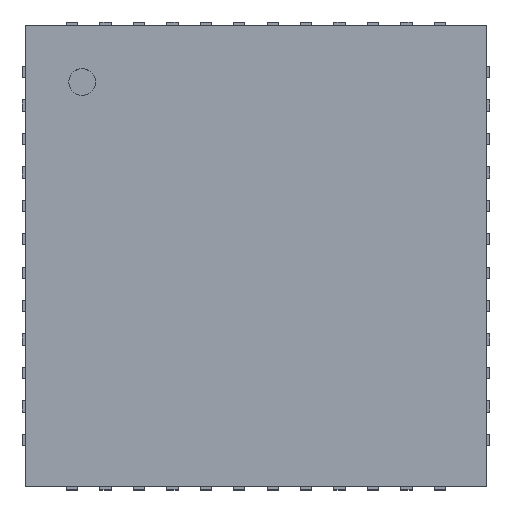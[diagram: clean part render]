
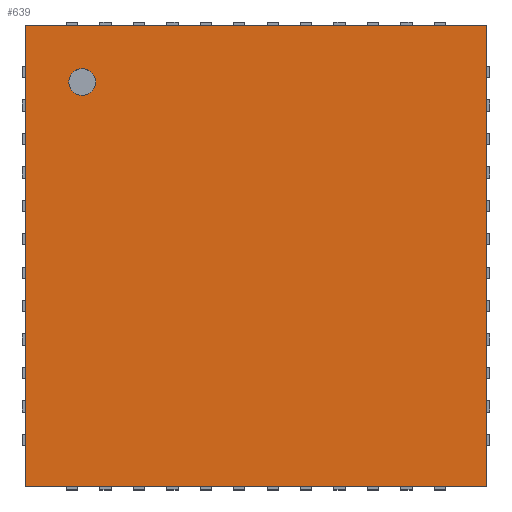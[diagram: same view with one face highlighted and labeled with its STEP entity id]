
A CAD part, top view. The second image highlights one B-rep face of the part: STEP entity #639.
In plain terms, the highlighted planar face has unit normal (0, 0, 1).
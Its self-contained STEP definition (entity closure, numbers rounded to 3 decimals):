
#639=ADVANCED_FACE('',(#1419,#1420),#1421,.T.);
#1419=FACE_OUTER_BOUND('',#2337,.T.);
#1420=FACE_BOUND('',#2338,.T.);
#1421=PLANE('',#2339);
#2337=EDGE_LOOP('',(#4610,#4611,#4612,#4613));
#2338=EDGE_LOOP('',(#4614,#4615));
#2339=AXIS2_PLACEMENT_3D('',#4616,#4617,#4618);
#4610=ORIENTED_EDGE('',*,*,#6047,.F.);
#4611=ORIENTED_EDGE('',*,*,#6086,.T.);
#4612=ORIENTED_EDGE('',*,*,#6415,.T.);
#4613=ORIENTED_EDGE('',*,*,#6376,.F.);
#4614=ORIENTED_EDGE('',*,*,#5787,.T.);
#4615=ORIENTED_EDGE('',*,*,#6741,.T.);
#4616=CARTESIAN_POINT('',(-3.45,3.45,1.1));
#4617=DIRECTION('',(0.0,0.0,1.0));
#4618=DIRECTION('',(1.0,0.0,0.0));
#5787=EDGE_CURVE('',#6989,#6986,#6990,.T.);
#6047=EDGE_CURVE('',#7481,#7419,#7483,.T.);
#6086=EDGE_CURVE('',#7481,#7545,#7547,.T.);
#6376=EDGE_CURVE('',#7419,#7981,#7982,.T.);
#6415=EDGE_CURVE('',#7545,#7981,#8045,.T.);
#6741=EDGE_CURVE('',#6986,#6989,#8539,.T.);
#6986=VERTEX_POINT('',#8784);
#6989=VERTEX_POINT('',#8788);
#6990=CIRCLE('',#8789,0.2);
#7419=VERTEX_POINT('',#9430);
#7481=VERTEX_POINT('',#9529);
#7483=LINE('',#9532,#9533);
#7545=VERTEX_POINT('',#9631);
#7547=LINE('',#9634,#9635);
#7981=VERTEX_POINT('',#10285);
#7982=LINE('',#10286,#10287);
#8045=LINE('',#10387,#10388);
#8539=CIRCLE('',#11134,0.2);
#8784=CARTESIAN_POINT('',(-2.6,2.8,1.1));
#8788=CARTESIAN_POINT('',(-2.6,2.4,1.1));
#8789=AXIS2_PLACEMENT_3D('',#11475,#11476,#11477);
#9430=CARTESIAN_POINT('',(3.45,3.45,1.1));
#9529=CARTESIAN_POINT('',(-3.45,3.45,1.1));
#9532=CARTESIAN_POINT('',(-3.45,3.45,1.1));
#9533=VECTOR('',#11731,1.0);
#9631=CARTESIAN_POINT('',(-3.45,-3.45,1.1));
#9634=CARTESIAN_POINT('',(-3.45,3.45,1.1));
#9635=VECTOR('',#11769,1.0);
#10285=CARTESIAN_POINT('',(3.45,-3.45,1.1));
#10286=CARTESIAN_POINT('',(3.45,3.45,1.1));
#10287=VECTOR('',#11986,1.0);
#10387=CARTESIAN_POINT('',(-3.45,-3.45,1.1));
#10388=VECTOR('',#12024,1.0);
#11134=AXIS2_PLACEMENT_3D('',#12277,#12278,#12279);
#11475=CARTESIAN_POINT('',(-2.6,2.6,1.1));
#11476=DIRECTION('',(-0.0,0.0,-1.0));
#11477=DIRECTION('',(0.,-1.0,0.0));
#11731=DIRECTION('',(1.0,0.,0.0));
#11769=DIRECTION('',(0.,-1.0,0.0));
#11986=DIRECTION('',(0.,-1.0,0.0));
#12024=DIRECTION('',(1.0,0.,0.0));
#12277=CARTESIAN_POINT('',(-2.6,2.6,1.1));
#12278=DIRECTION('',(-0.0,0.0,-1.0));
#12279=DIRECTION('',(0.,-1.0,0.0));
